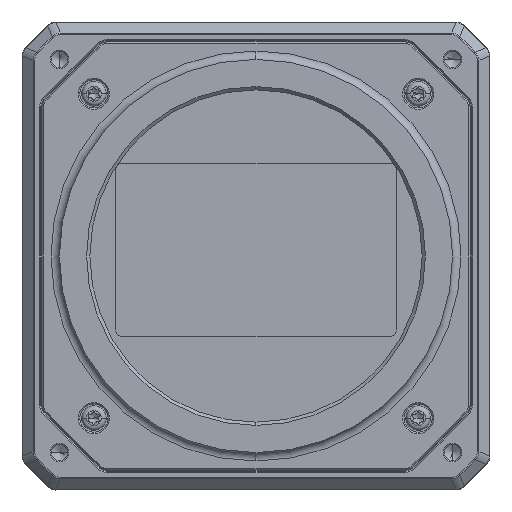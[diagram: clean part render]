
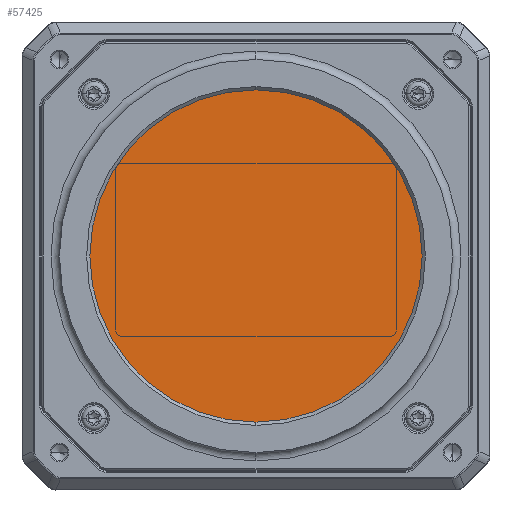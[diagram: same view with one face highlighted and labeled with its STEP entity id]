
A CAD part, front view. The second image highlights one B-rep face of the part: STEP entity #57425.
In plain terms, the highlighted planar face has unit normal (0, -1, 0) by its records, which use the part's own axes.
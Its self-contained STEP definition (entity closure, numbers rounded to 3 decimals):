
#57371=CARTESIAN_POINT('',(50.,6.2,-50.));
#57372=DIRECTION('',(0.,-1.,0.));
#57373=DIRECTION('',(-1.,0.,0.));
#57374=AXIS2_PLACEMENT_3D('',#57371,#57372,#57373);
#57376=CARTESIAN_POINT('',(50.,6.2,-50.));
#57377=DIRECTION('',(0.,-1.,0.));
#57378=DIRECTION('',(1.,0.,0.));
#57379=AXIS2_PLACEMENT_3D('',#57376,#57377,#57378);
#57395=CARTESIAN_POINT('',(11.6,6.2,-50.));
#57396=CARTESIAN_POINT('',(88.4,6.2,-50.));
#57397=VERTEX_POINT('',#57395);
#57398=VERTEX_POINT('',#57396);
#57415=CARTESIAN_POINT('',(50.,6.2,-50.));
#57416=DIRECTION('',(0.,1.,0.));
#57417=DIRECTION('',(1.,0.,0.));
#57418=AXIS2_PLACEMENT_3D('',#57415,#57416,#57417);
#57419=PLANE('',#57418);
#57421=ORIENTED_EDGE('',*,*,#57420,.F.);
#57422=ORIENTED_EDGE('',*,*,#57404,.F.);
#57423=EDGE_LOOP('',(#57421,#57422));
#57424=FACE_OUTER_BOUND('',#57423,.F.);
#57425=ADVANCED_FACE('',(#57424),#57419,.F.);
#57375=CIRCLE('',#57374,38.4);
#57380=CIRCLE('',#57379,38.4);
#57404=EDGE_CURVE('',#57398,#57397,#57380,.T.);
#57420=EDGE_CURVE('',#57397,#57398,#57375,.T.);
